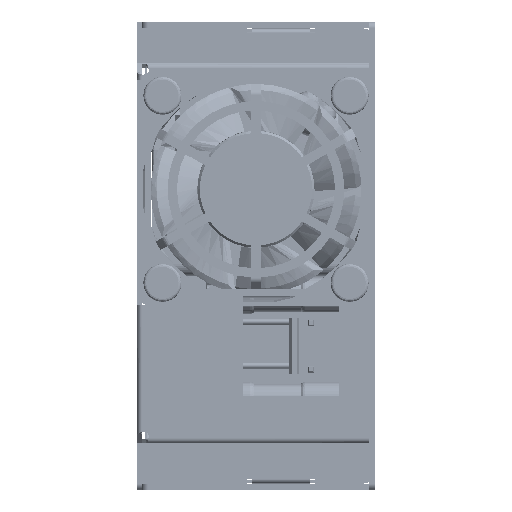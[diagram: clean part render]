
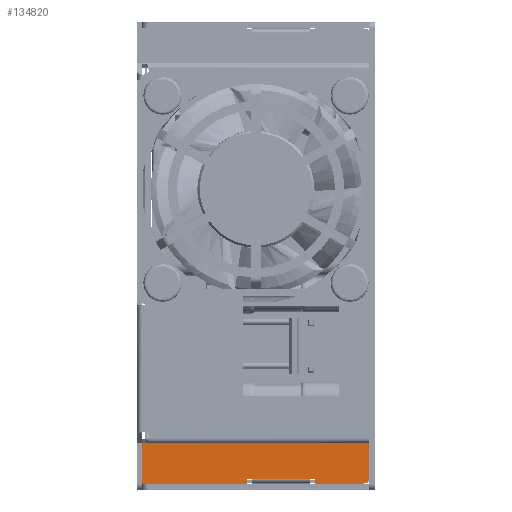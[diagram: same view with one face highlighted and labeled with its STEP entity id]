
A CAD part, left-side view. The second image highlights one B-rep face of the part: STEP entity #134820.
In plain terms, the highlighted planar face has unit normal (1, 0, 0).
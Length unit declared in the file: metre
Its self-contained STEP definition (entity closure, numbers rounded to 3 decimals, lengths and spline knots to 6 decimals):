
#1752 = VERTEX_POINT ( 'NONE', #157766 ) ;
#4563 = VECTOR ( 'NONE', #139109, 1. ) ;
#6039 = AXIS2_PLACEMENT_3D ( 'NONE', #152412, #27627, #229846 ) ;
#7389 = VECTOR ( 'NONE', #176680, 1. ) ;
#8049 = VERTEX_POINT ( 'NONE', #56179 ) ;
#8547 = VERTEX_POINT ( 'NONE', #224853 ) ;
#10470 = EDGE_CURVE ( 'NONE', #206935, #53952, #144531, .T. ) ;
#14190 = LINE ( 'NONE', #161898, #225980 ) ;
#17695 = ORIENTED_EDGE ( 'NONE', *, *, #44743, .T. ) ;
#18449 = CARTESIAN_POINT ( 'NONE',  ( -0.0634, -0.0378, -0.0389 ) ) ;
#24856 = LINE ( 'NONE', #208926, #105639 ) ;
#25462 = CARTESIAN_POINT ( 'NONE',  ( -0.0634, -0.0288, -0.03807 ) ) ;
#27627 = DIRECTION ( 'NONE',  ( 1., 0., 0. ) ) ;
#27839 = DIRECTION ( 'NONE',  ( 0., 1., 0. ) ) ;
#28050 = LINE ( 'NONE', #140582, #47342 ) ;
#29605 = EDGE_LOOP ( 'NONE', ( #124141, #114166, #17695, #47456, #96508, #114879, #146195, #202678, #102847, #41175, #34179 ) ) ;
#33619 = VECTOR ( 'NONE', #27839, 1. ) ;
#34179 = ORIENTED_EDGE ( 'NONE', *, *, #72458, .T. ) ;
#38849 = LINE ( 'NONE', #48341, #7389 ) ;
#41175 = ORIENTED_EDGE ( 'NONE', *, *, #197326, .T. ) ;
#44743 = EDGE_CURVE ( 'NONE', #91117, #81690, #136826, .T. ) ;
#46883 = LINE ( 'NONE', #69780, #135580 ) ;
#47342 = VECTOR ( 'NONE', #66751, 1. ) ;
#47456 = ORIENTED_EDGE ( 'NONE', *, *, #198110, .F. ) ;
#48341 = CARTESIAN_POINT ( 'NONE',  ( -0.0634, 0., -0.036015 ) ) ;
#50467 = VERTEX_POINT ( 'NONE', #142328 ) ;
#50661 = DIRECTION ( 'NONE',  ( 0., -1., 0. ) ) ;
#53952 = VERTEX_POINT ( 'NONE', #181197 ) ;
#56179 = CARTESIAN_POINT ( 'NONE',  ( -0.0634, -0.0388, -0.0379 ) ) ;
#65288 = CARTESIAN_POINT ( 'NONE',  ( -0.0634, -0.0388, -0.03203 ) ) ;
#66031 = CARTESIAN_POINT ( 'NONE',  ( -0.0634, -0.0296, -0.0389 ) ) ;
#66751 = DIRECTION ( 'NONE',  ( 0., 0., -1. ) ) ;
#68302 = DIRECTION ( 'NONE',  ( -1., 0., 0. ) ) ;
#69780 = CARTESIAN_POINT ( 'NONE',  ( -0.0634, -0.0388, -0.0358 ) ) ;
#69854 = DIRECTION ( 'NONE',  ( 0., 0., 1. ) ) ;
#70692 = FACE_OUTER_BOUND ( 'NONE', #29605, .T. ) ;
#72458 = EDGE_CURVE ( 'NONE', #8049, #190621, #110329, .T. ) ;
#74569 = CARTESIAN_POINT ( 'NONE',  ( -0.0634, 0., -0.03807 ) ) ;
#81690 = VERTEX_POINT ( 'NONE', #116082 ) ;
#89456 = EDGE_CURVE ( 'NONE', #124908, #91117, #14190, .T. ) ;
#91117 = VERTEX_POINT ( 'NONE', #107106 ) ;
#96508 = ORIENTED_EDGE ( 'NONE', *, *, #10470, .T. ) ;
#102847 = ORIENTED_EDGE ( 'NONE', *, *, #199289, .F. ) ;
#105639 = VECTOR ( 'NONE', #207746, 1. ) ;
#106931 = CARTESIAN_POINT ( 'NONE',  ( -0.0634, -0.0188, -0.03807 ) ) ;
#107106 = CARTESIAN_POINT ( 'NONE',  ( -0.0634, -0.0296, -0.03807 ) ) ;
#110329 = CIRCLE ( 'NONE', #6039, 0.001 ) ;
#111770 = CARTESIAN_POINT ( 'NONE',  ( -0.0634, -0.0188, -0.03807 ) ) ;
#114166 = ORIENTED_EDGE ( 'NONE', *, *, #89456, .T. ) ;
#114879 = ORIENTED_EDGE ( 'NONE', *, *, #147285, .T. ) ;
#116082 = CARTESIAN_POINT ( 'NONE',  ( -0.0634, -0.0288, -0.03807 ) ) ;
#123245 = CARTESIAN_POINT ( 'NONE',  ( -0.0634, -0.0194, -0.0389 ) ) ;
#124141 = ORIENTED_EDGE ( 'NONE', *, *, #127413, .F. ) ;
#124908 = VERTEX_POINT ( 'NONE', #66031 ) ;
#125882 = VECTOR ( 'NONE', #50661, 1. ) ;
#127413 = EDGE_CURVE ( 'NONE', #124908, #190621, #215336, .T. ) ;
#134820 = ADVANCED_FACE ( 'NONE', ( #70692 ), #218425, .F. ) ;
#135580 = VECTOR ( 'NONE', #177583, 1. ) ;
#136826 = LINE ( 'NONE', #25462, #33619 ) ;
#139109 = DIRECTION ( 'NONE',  ( 0., 1., 0. ) ) ;
#140582 = CARTESIAN_POINT ( 'NONE',  ( -0.0634, -0.018, -0.03807 ) ) ;
#141276 = LINE ( 'NONE', #74569, #228586 ) ;
#142328 = CARTESIAN_POINT ( 'NONE',  ( -0.0634, 0., -0.03203 ) ) ;
#142721 = AXIS2_PLACEMENT_3D ( 'NONE', #160313, #68302, #200295 ) ;
#144531 = LINE ( 'NONE', #106931, #199122 ) ;
#146195 = ORIENTED_EDGE ( 'NONE', *, *, #150311, .F. ) ;
#147285 = EDGE_CURVE ( 'NONE', #53952, #8547, #28050, .T. ) ;
#150311 = EDGE_CURVE ( 'NONE', #231137, #8547, #24856, .T. ) ;
#152412 = CARTESIAN_POINT ( 'NONE',  ( -0.0634, -0.0378, -0.0379 ) ) ;
#157766 = CARTESIAN_POINT ( 'NONE',  ( -0.0634, -0.0388, -0.03203 ) ) ;
#160313 = CARTESIAN_POINT ( 'NONE',  ( -0.0634, 0., -0.04 ) ) ;
#161898 = CARTESIAN_POINT ( 'NONE',  ( -0.0634, -0.0296, -0.03807 ) ) ;
#167846 = DIRECTION ( 'NONE',  ( 0., -1., 0. ) ) ;
#172861 = EDGE_CURVE ( 'NONE', #50467, #231137, #38849, .T. ) ;
#176397 = CARTESIAN_POINT ( 'NONE',  ( -0.0634, 0., -0.0389 ) ) ;
#176680 = DIRECTION ( 'NONE',  ( 0., 0., -1. ) ) ;
#177583 = DIRECTION ( 'NONE',  ( 0., 0., -1. ) ) ;
#179701 = DIRECTION ( 'NONE',  ( 0., 1., 0. ) ) ;
#181197 = CARTESIAN_POINT ( 'NONE',  ( -0.0634, -0.018, -0.03807 ) ) ;
#190621 = VERTEX_POINT ( 'NONE', #18449 ) ;
#197326 = EDGE_CURVE ( 'NONE', #1752, #8049, #46883, .T. ) ;
#198110 = EDGE_CURVE ( 'NONE', #206935, #81690, #141276, .T. ) ;
#199122 = VECTOR ( 'NONE', #179701, 1. ) ;
#199289 = EDGE_CURVE ( 'NONE', #1752, #50467, #209456, .T. ) ;
#200295 = DIRECTION ( 'NONE',  ( 0., 0., 1. ) ) ;
#202678 = ORIENTED_EDGE ( 'NONE', *, *, #172861, .F. ) ;
#206935 = VERTEX_POINT ( 'NONE', #111770 ) ;
#207746 = DIRECTION ( 'NONE',  ( 0., -1., 0. ) ) ;
#208926 = CARTESIAN_POINT ( 'NONE',  ( -0.0634, -0.0194, -0.0389 ) ) ;
#209456 = LINE ( 'NONE', #65288, #4563 ) ;
#215336 = LINE ( 'NONE', #123245, #125882 ) ;
#218425 = PLANE ( 'NONE',  #142721 ) ;
#224853 = CARTESIAN_POINT ( 'NONE',  ( -0.0634, -0.018, -0.0389 ) ) ;
#225980 = VECTOR ( 'NONE', #69854, 1. ) ;
#228586 = VECTOR ( 'NONE', #167846, 1. ) ;
#229846 = DIRECTION ( 'NONE',  ( 0., 0., 1. ) ) ;
#231137 = VERTEX_POINT ( 'NONE', #176397 ) ;
